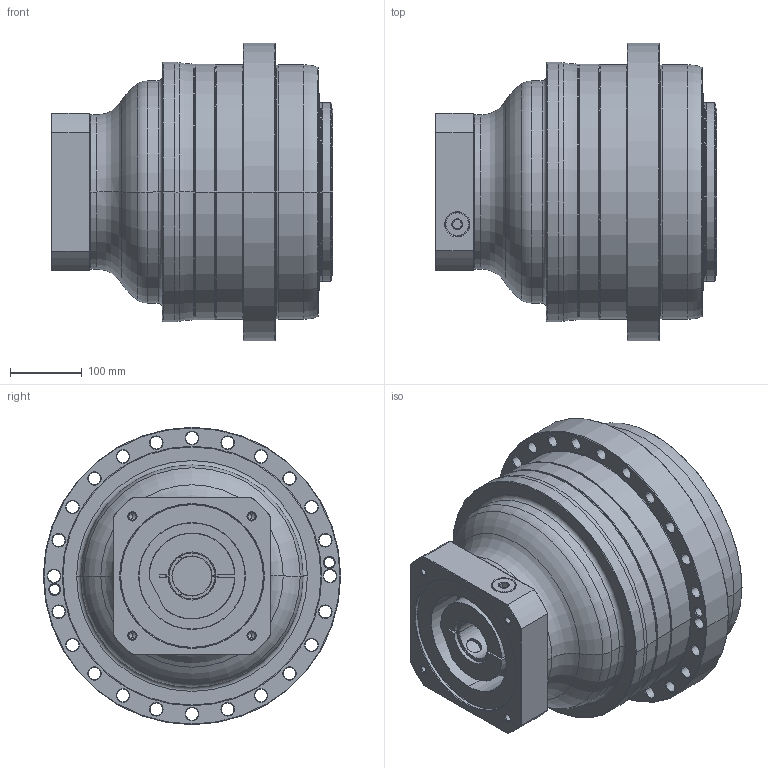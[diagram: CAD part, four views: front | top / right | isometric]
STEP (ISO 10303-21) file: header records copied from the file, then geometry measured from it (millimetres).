
FILE_DESCRIPTION((''),'2;1');
FILE_NAME('AP355_2ST_55-P0409C50201_ASM','2018-06-05T',('d01226'),(''),'PRO/ENGINEER BY PARAMETRIC TECHNOLOGY CORPORATION, 2008410','PRO/ENGINEER BY PARAMETRIC TECHNOLOGY CORPORATION, 2008410','');
FILE_SCHEMA(('CONFIG_CONTROL_DESIGN'));
Length unit declared in the file: millimetre
Products named in the file (9): P0276101003; P0357101103; P1339110301; P0503C00016; P0962104001; P1222100001; P0409C50201; 21711426021; AP355_2ST_55-P0409C50201_ASM
Assembly tree (8 placements, depth 2):
  AP355_2ST_55-P0409C50201_ASM
    P0276101003
    P0357101103
    P1339110301
    P0503C00016
    P0962104001
    P1222100001
    P0409C50201
    21711426021
Bounding box: 392.5 x 415 x 415 mm (x, y, z)
Volume: 25401373.5 mm3; surface area: 1418922.7 mm2
Topology: 9 solids, 34 shells, 682 faces, 1573 edges, 958 vertices
Faces by surface type: cylinder 280, cone 188, plane 108, torus 94, bspline 12
Entity records: 24269 total; most frequent: CARTESIAN_POINT 7962, DIRECTION 3777, ORIENTED_EDGE 3014, AXIS2_PLACEMENT_3D 1622, EDGE_CURVE 1557, VERTEX_POINT 958, CIRCLE 925, EDGE_LOOP 847
